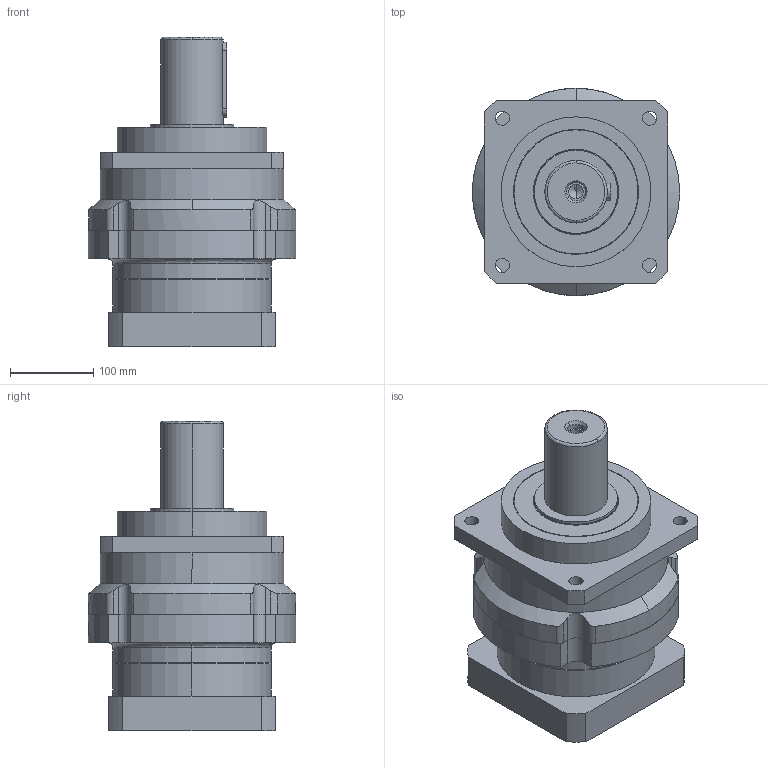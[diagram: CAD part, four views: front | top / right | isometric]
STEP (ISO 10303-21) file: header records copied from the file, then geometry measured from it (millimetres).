
FILE_DESCRIPTION (( 'STEP AP203' ), '1' );
FILE_NAME ('PLM220-42-114.3-200.STEP', '2024-09-21T02:39:07', ( 'Windows User' ), ( 'P R C' ), 'SwSTEP 2.0', 'SolidWorks 2016', '' );
FILE_SCHEMA (( 'CONFIG_CONTROL_DESIGN' ));
Length unit declared in the file: millimetre
Products named in the file (7): PLM220-LJ-114.3-M12-200-LR117.5; GB／T70．1-2000内六角圆柱头螺钉M12×35; PLM220-42-114.3-200; PLM220转架齿圈; 邧埴瑩 20x12x90; TC100-150-10_TC-34.9-55-7; PLM220珨撰狟裔薊粣ん-42
Assembly tree (6 placements, depth 2):
  PLM220-42-114.3-200
    PLM220转架齿圈
    邧埴瑩 20x12x90
    TC100-150-10_TC-34.9-55-7
    PLM220珨撰狟裔薊粣ん-42
    PLM220-LJ-114.3-M12-200-LR117.5
    GB／T70．1-2000内六角圆柱头螺钉M12×35
Bounding box: 249 x 249 x 371.5 mm (x, y, z)
Volume: 9155116.9 mm3; surface area: 652501.2 mm2
Topology: 6 solids, 6 shells, 1009 faces, 2639 edges, 1725 vertices
Faces by surface type: plane 564, cylinder 210, bspline 174, cone 61
Entity records: 40608 total; most frequent: CARTESIAN_POINT 15853, ORIENTED_EDGE 5214, DIRECTION 4440, EDGE_CURVE 2607, LINE 1746, VECTOR 1746, VERTEX_POINT 1725, AXIS2_PLACEMENT_3D 1347
